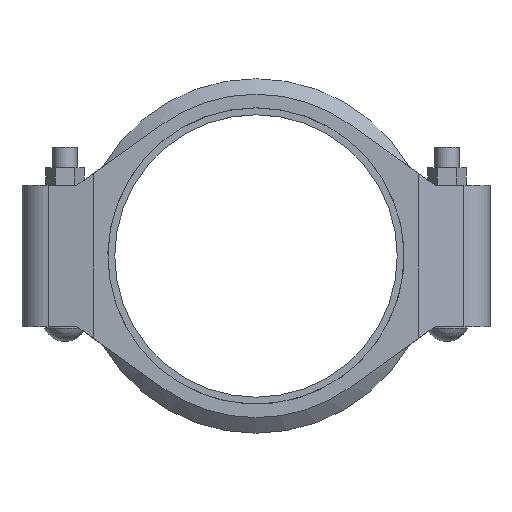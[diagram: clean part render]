
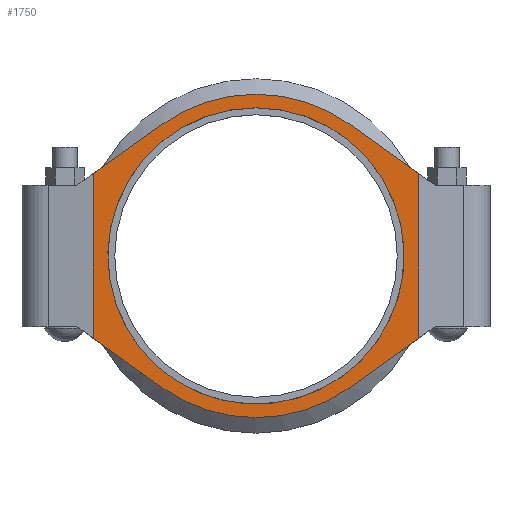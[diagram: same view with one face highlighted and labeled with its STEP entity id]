
A CAD part, top view. The second image highlights one B-rep face of the part: STEP entity #1750.
In plain terms, the highlighted planar face has unit normal (0, 0, 1).
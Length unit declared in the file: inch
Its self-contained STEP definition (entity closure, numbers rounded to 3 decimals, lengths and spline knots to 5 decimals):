
#73=FACE_BOUND('',#280,.T.);
#117=PLANE('',#1902);
#187=FACE_OUTER_BOUND('',#279,.T.);
#279=EDGE_LOOP('',(#1355,#1356,#1357,#1358,#1359,#1360,#1361,#1362));
#280=EDGE_LOOP('',(#1363,#1364));
#362=LINE('',#2621,#519);
#377=LINE('',#2660,#534);
#416=LINE('',#2772,#573);
#435=LINE('',#2835,#592);
#440=LINE('',#2849,#597);
#441=LINE('',#2851,#598);
#519=VECTOR('',#2103,0.3937);
#534=VECTOR('',#2138,0.3937);
#573=VECTOR('',#2233,0.3937);
#592=VECTOR('',#2272,0.3937);
#597=VECTOR('',#2289,0.3937);
#598=VECTOR('',#2292,0.3937);
#644=CIRCLE('',#1819,5.375);
#645=CIRCLE('',#1820,5.375);
#672=CIRCLE('',#1903,5.865);
#673=CIRCLE('',#1904,5.865);
#710=VERTEX_POINT('',#2508);
#711=VERTEX_POINT('',#2510);
#748=VERTEX_POINT('',#2616);
#749=VERTEX_POINT('',#2620);
#762=VERTEX_POINT('',#2657);
#763=VERTEX_POINT('',#2659);
#801=VERTEX_POINT('',#2769);
#802=VERTEX_POINT('',#2771);
#823=VERTEX_POINT('',#2830);
#824=VERTEX_POINT('',#2834);
#874=EDGE_CURVE('',#711,#710,#644,.T.);
#875=EDGE_CURVE('',#710,#711,#645,.T.);
#925=EDGE_CURVE('',#749,#748,#362,.T.);
#944=EDGE_CURVE('',#762,#763,#377,.T.);
#996=EDGE_CURVE('',#801,#802,#416,.T.);
#1023=EDGE_CURVE('',#824,#823,#435,.T.);
#1032=EDGE_CURVE('',#762,#749,#440,.T.);
#1033=EDGE_CURVE('',#802,#748,#672,.T.);
#1034=EDGE_CURVE('',#801,#824,#441,.T.);
#1035=EDGE_CURVE('',#763,#823,#673,.T.);
#1355=ORIENTED_EDGE('',*,*,#1032,.T.);
#1356=ORIENTED_EDGE('',*,*,#925,.T.);
#1357=ORIENTED_EDGE('',*,*,#1033,.F.);
#1358=ORIENTED_EDGE('',*,*,#996,.F.);
#1359=ORIENTED_EDGE('',*,*,#1034,.T.);
#1360=ORIENTED_EDGE('',*,*,#1023,.T.);
#1361=ORIENTED_EDGE('',*,*,#1035,.F.);
#1362=ORIENTED_EDGE('',*,*,#944,.F.);
#1363=ORIENTED_EDGE('',*,*,#874,.T.);
#1364=ORIENTED_EDGE('',*,*,#875,.T.);
#1750=ADVANCED_FACE('',(#187,#73),#117,.T.);
#1819=AXIS2_PLACEMENT_3D('',#2511,#2007,#2008);
#1820=AXIS2_PLACEMENT_3D('',#2512,#2009,#2010);
#1902=AXIS2_PLACEMENT_3D('',#2848,#2287,#2288);
#1903=AXIS2_PLACEMENT_3D('',#2850,#2290,#2291);
#1904=AXIS2_PLACEMENT_3D('',#2852,#2293,#2294);
#2007=DIRECTION('center_axis',(0.,0.,-1.));
#2008=DIRECTION('ref_axis',(0.,-1.,0.));
#2009=DIRECTION('center_axis',(0.,0.,-1.));
#2010=DIRECTION('ref_axis',(0.,-1.,0.));
#2103=DIRECTION('',(-0.813,0.582,0.));
#2138=DIRECTION('',(-0.813,-0.582,0.));
#2233=DIRECTION('',(0.813,0.582,0.));
#2272=DIRECTION('',(0.813,-0.582,0.));
#2287=DIRECTION('center_axis',(0.,0.,1.));
#2288=DIRECTION('ref_axis',(-1.,0.,0.));
#2289=DIRECTION('',(0.,1.,0.));
#2290=DIRECTION('center_axis',(0.,0.,-1.));
#2291=DIRECTION('ref_axis',(0.,-1.,0.));
#2292=DIRECTION('',(0.,-1.,0.));
#2293=DIRECTION('center_axis',(0.,0.,-1.));
#2294=DIRECTION('ref_axis',(0.,-1.,0.));
#2508=CARTESIAN_POINT('',(0.,5.375,1.28));
#2510=CARTESIAN_POINT('',(-4.72621,-2.56,1.28));
#2511=CARTESIAN_POINT('Origin',(0.,0.,1.28));
#2512=CARTESIAN_POINT('Origin',(0.,0.,1.28));
#2616=CARTESIAN_POINT('',(3.41373,4.76914,1.28));
#2620=CARTESIAN_POINT('',(5.89842,2.99061,1.28));
#2621=CARTESIAN_POINT('',(6.5,2.56,1.28));
#2657=CARTESIAN_POINT('',(5.89842,-2.99061,1.28));
#2659=CARTESIAN_POINT('',(3.41373,-4.76914,1.28));
#2660=CARTESIAN_POINT('',(6.5,-2.56,1.28));
#2769=CARTESIAN_POINT('',(-5.89842,2.99061,1.28));
#2771=CARTESIAN_POINT('',(-3.41373,4.76914,1.28));
#2772=CARTESIAN_POINT('',(-6.5,2.56,1.28));
#2830=CARTESIAN_POINT('',(-3.41373,-4.76914,1.28));
#2834=CARTESIAN_POINT('',(-5.89842,-2.99061,1.28));
#2835=CARTESIAN_POINT('',(-6.5,-2.56,1.28));
#2848=CARTESIAN_POINT('Origin',(0.,-5.62,1.28));
#2849=CARTESIAN_POINT('',(5.89842,-2.81,1.28));
#2850=CARTESIAN_POINT('Origin',(0.,0.,1.28));
#2851=CARTESIAN_POINT('',(-5.89842,-2.81,1.28));
#2852=CARTESIAN_POINT('Origin',(0.,0.,1.28));
